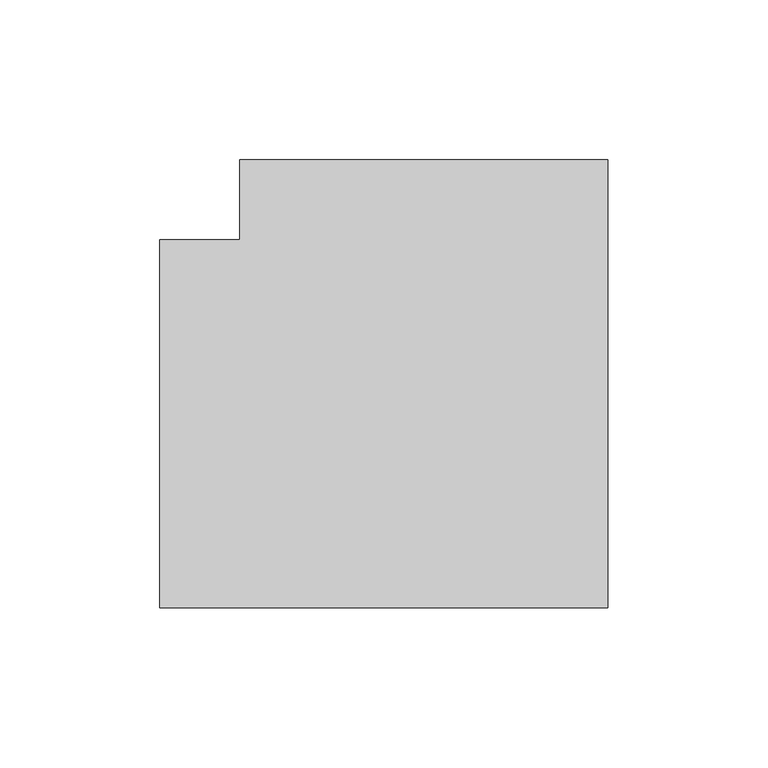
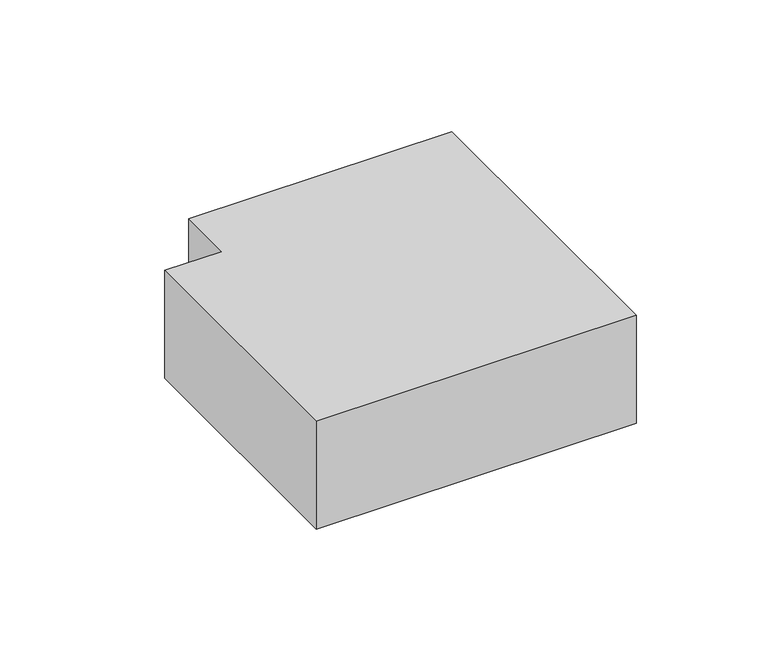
"""IFC4 building model written with IfcOpenShell, lengths in millimetres: duct fitting geometry, КНС_УголПлоский_DKC : Угол плоский."""

from ifc_helpers import new_model, si_unit, frame, origin, place, context, project, spatial, polyline, outline, extrude, source, transform, mapped, element, save


def duct_fitting_18d34416(model_context):
    return source(origin(), model_context, "Body", "SweptSolid", [
        extrude(outline(polyline([(-72.3334112, -72.5757244), (-72.3334112, 42.4242756), (-47.3334112, 42.4242756), (-47.3334112, 67.4242756), (67.6665888, 67.4242756), (67.6665888, -72.5757244), (-72.3334112, -72.5757244)])), frame((0.0, 0.0, -25.0), z_axis=(0.0, 0.0, 1.0), x_axis=(1.0, 0.0, 0.0)), (0.0, 0.0, 1.0), 50.0),
    ])


if __name__ == "__main__":
    model = new_model("IFC4")
    model_context = context("Model", 3, world=origin())
    ifc_project = project(units=[si_unit("LENGTHUNIT", "METRE", prefix="MILLI")], contexts=[model_context])
    site = spatial("IfcSite", under=ifc_project)
    building = spatial("IfcBuilding", under=site)
    placement = place(None, origin())
    duct_fitting_shape = duct_fitting_18d34416(model_context)
    element("IfcDuctFitting", 1, ObjectType="КНС_УголПлоский_DKC : Угол плоский", at=placement, inside=building, context=model_context, shape_type="MappedRepresentation", body=[
        mapped(duct_fitting_shape, transform((0.0, 0.0, 0.0), x_axis=(1.0, 0.0, 0.0), y_axis=(0.0, 1.0, 0.0), z_axis=(0.0, 0.0, 1.0))),
    ])
    save(model, "model.ifc")
